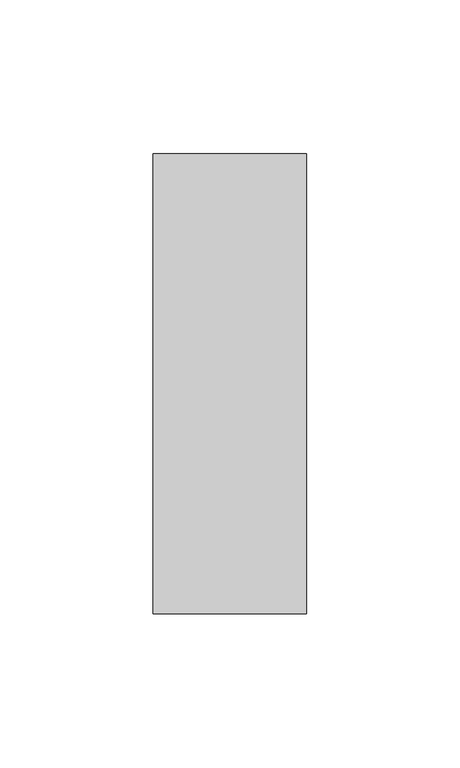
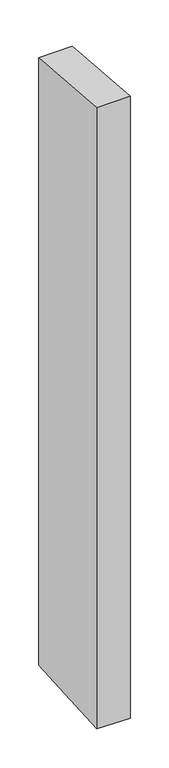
"""IFC4 building model written with IfcOpenShell, lengths in millimetres: member geometry, Прямоугольный импост : 50 x 150 мм."""

from ifc_helpers import new_model, si_unit, origin, place, context, project, spatial, faceted_brep, source, transform, mapped, element, save


def member_1a116929(model_context):
    return source(origin(), model_context, "Body", "Brep", [
        faceted_brep([(-25.0, 75.0, -6.3072079), (25.0, 75.0, -5.7489028), (25.0, 75.0, -965.128169), (-25.0, 75.0, -964.4259097), (-25.0, -75.0, 5.7489028), (-25.0, -75.0, -973.8099444), (25.0, -75.0, 6.3072079), (25.0, -75.0, -974.5122038)], [[[0, 1, 2, 3]], [[4, 0, 3, 5]], [[6, 4, 5, 7]], [[1, 6, 7, 2]], [[1, 0, 4, 6]], [[2, 7, 5, 3]]]),
    ])


if __name__ == "__main__":
    model = new_model("IFC4")
    model_context = context("Model", 3, world=origin())
    ifc_project = project(units=[si_unit("LENGTHUNIT", "METRE", prefix="MILLI")], contexts=[model_context])
    site = spatial("IfcSite", under=ifc_project)
    building = spatial("IfcBuilding", under=site)
    placement = place(None, origin())
    member_shape = member_1a116929(model_context)
    element("IfcMember", 1, ObjectType="Прямоугольный импост : 50 x 150 мм", at=placement, inside=building, context=model_context, shape_type="MappedRepresentation", body=[
        mapped(member_shape, transform((0.0, 0.0, 0.0), x_axis=(1.0, 0.0, 0.0), y_axis=(0.0, 1.0, 0.0), z_axis=(0.0, 0.0, 1.0))),
    ])
    save(model, "model.ifc")
